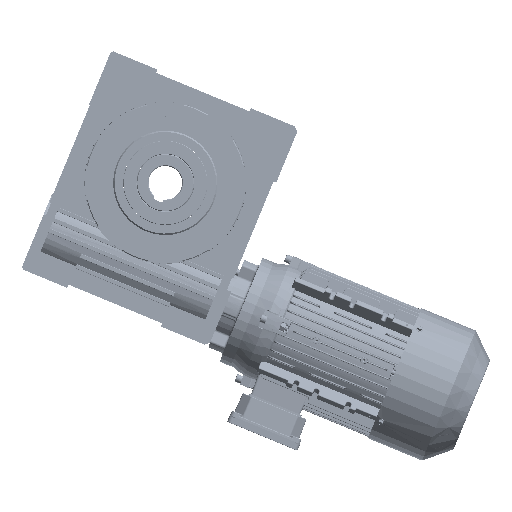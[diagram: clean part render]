
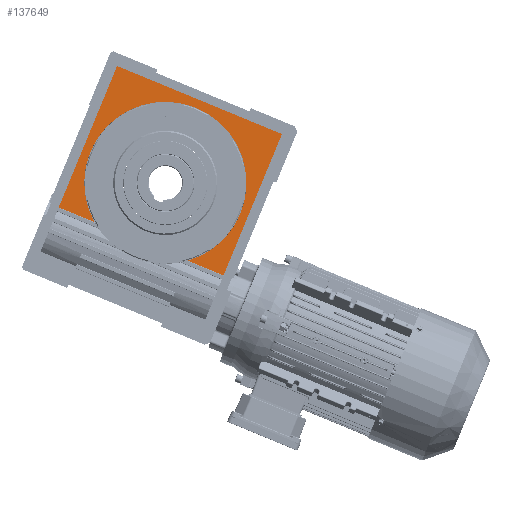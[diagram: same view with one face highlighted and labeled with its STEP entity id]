
A CAD part, left-side view. The second image highlights one B-rep face of the part: STEP entity #137649.
In plain terms, the highlighted planar face has unit normal (-1, 0, 0) as drawn and (1, 0, 0) by its records, which use the part's own axes.
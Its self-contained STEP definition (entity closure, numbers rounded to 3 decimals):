
#77985 = LINE ( 'NONE', #79469, #77990 ) ;
#77990 = VECTOR ( 'NONE', #79471, 1000. ) ;
#78049 = LINE ( 'NONE', #79546, #78054 ) ;
#78054 = VECTOR ( 'NONE', #79547, 1000. ) ;
#78088 = LINE ( 'NONE', #79570, #78091 ) ;
#78091 = VECTOR ( 'NONE', #79565, 1000. ) ;
#78525 = LINE ( 'NONE', #79869, #78530 ) ;
#78529 = LINE ( 'NONE', #79871, #78534 ) ;
#78530 = VECTOR ( 'NONE', #79870, 1000. ) ;
#78532 = CIRCLE ( 'NONE', #175946, 100.8 ) ;
#78534 = VECTOR ( 'NONE', #79872, 1000. ) ;
#79469 = CARTESIAN_POINT ( 'NONE',  ( 32.5, -111.5, 111. ) ) ;
#79471 = DIRECTION ( 'NONE',  ( 0., 0., -1. ) ) ;
#79546 = CARTESIAN_POINT ( 'NONE',  ( 32.5, -111.5, -111. ) ) ;
#79547 = DIRECTION ( 'NONE',  ( 0., 1., 0. ) ) ;
#79565 = DIRECTION ( 'NONE',  ( 0., -1., 0. ) ) ;
#79570 = CARTESIAN_POINT ( 'NONE',  ( 32.5, -111.5, 111. ) ) ;
#79869 = CARTESIAN_POINT ( 'NONE',  ( 32.5, 78.917, 111. ) ) ;
#79870 = DIRECTION ( 'NONE',  ( 0., 0., 1. ) ) ;
#79871 = CARTESIAN_POINT ( 'NONE',  ( 32.5, 78.917, 111. ) ) ;
#79872 = DIRECTION ( 'NONE',  ( 0., 0., 1. ) ) ;
#79875 = CARTESIAN_POINT ( 'NONE',  ( 32.5, 0., 0. ) ) ;
#79876 = DIRECTION ( 'NONE',  ( 1., 0., 0. ) ) ;
#79877 = DIRECTION ( 'NONE',  ( 0., 1., 0. ) ) ;
#84313 = EDGE_CURVE ( 'NONE', #119685, #119686, #91370, .T. ) ;
#91370 = CIRCLE ( 'NONE', #172823, 100.8 ) ;
#92420 = CARTESIAN_POINT ( 'NONE',  ( 32.5, 0., 0. ) ) ;
#92421 = DIRECTION ( 'NONE',  ( 1., 0., 0. ) ) ;
#92424 = DIRECTION ( 'NONE',  ( 0., 1., 0. ) ) ;
#95180 = EDGE_LOOP ( 'NONE', ( #172881, #172885, #172890, #172894, #172898, #172902, #172906 ) ) ;
#99751 = EDGE_CURVE ( 'NONE', #121036, #121034, #77985, .T. ) ;
#99807 = EDGE_CURVE ( 'NONE', #121034, #121074, #78049, .T. ) ;
#99833 = EDGE_CURVE ( 'NONE', #121076, #121036, #78088, .T. ) ;
#100218 = EDGE_CURVE ( 'NONE', #119685, #121076, #78525, .T. ) ;
#100222 = EDGE_CURVE ( 'NONE', #121074, #121194, #78529, .T. ) ;
#100225 = EDGE_CURVE ( 'NONE', #119686, #121194, #78532, .T. ) ;
#119685 = VERTEX_POINT ( 'NONE', #123982 ) ;
#119686 = VERTEX_POINT ( 'NONE', #123985 ) ;
#121034 = VERTEX_POINT ( 'NONE', #126113 ) ;
#121036 = VERTEX_POINT ( 'NONE', #126115 ) ;
#121074 = VERTEX_POINT ( 'NONE', #126155 ) ;
#121076 = VERTEX_POINT ( 'NONE', #126157 ) ;
#121194 = VERTEX_POINT ( 'NONE', #126256 ) ;
#123982 = CARTESIAN_POINT ( 'NONE',  ( 32.5, 78.917, 62.712 ) ) ;
#123985 = CARTESIAN_POINT ( 'NONE',  ( 32.5, -100.8, 0. ) ) ;
#126113 = CARTESIAN_POINT ( 'NONE',  ( 32.5, -111.5, -111. ) ) ;
#126115 = CARTESIAN_POINT ( 'NONE',  ( 32.5, -111.5, 111. ) ) ;
#126155 = CARTESIAN_POINT ( 'NONE',  ( 32.5, 78.917, -111. ) ) ;
#126157 = CARTESIAN_POINT ( 'NONE',  ( 32.5, 78.917, 111. ) ) ;
#126256 = CARTESIAN_POINT ( 'NONE',  ( 32.5, 78.917, -62.712 ) ) ;
#130998 = FACE_OUTER_BOUND ( 'NONE', #95180, .T. ) ;
#134534 = PLANE ( 'NONE',  #146743 ) ;
#134535 = CARTESIAN_POINT ( 'NONE',  ( 32.5, -111.5, 111. ) ) ;
#134545 = DIRECTION ( 'NONE',  ( 1., 0., 0. ) ) ;
#134546 = DIRECTION ( 'NONE',  ( 0., 0., -1. ) ) ;
#137649 = ADVANCED_FACE ( 'NONE', ( #130998 ), #134534, .T. ) ;
#146743 = AXIS2_PLACEMENT_3D ( 'NONE', #134535, #134545, #134546 ) ;
#172823 = AXIS2_PLACEMENT_3D ( 'NONE', #92420, #92421, #92424 ) ;
#172881 = ORIENTED_EDGE ( 'NONE', *, *, #100218, .T. ) ;
#172885 = ORIENTED_EDGE ( 'NONE', *, *, #99833, .T. ) ;
#172890 = ORIENTED_EDGE ( 'NONE', *, *, #99751, .T. ) ;
#172894 = ORIENTED_EDGE ( 'NONE', *, *, #99807, .T. ) ;
#172898 = ORIENTED_EDGE ( 'NONE', *, *, #100222, .T. ) ;
#172902 = ORIENTED_EDGE ( 'NONE', *, *, #100225, .F. ) ;
#172906 = ORIENTED_EDGE ( 'NONE', *, *, #84313, .F. ) ;
#175946 = AXIS2_PLACEMENT_3D ( 'NONE', #79875, #79876, #79877 ) ;
